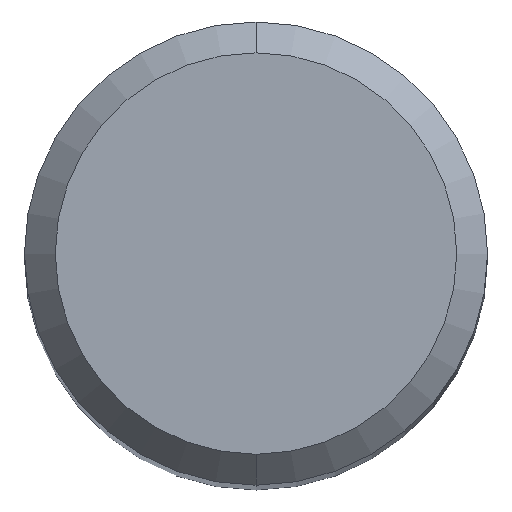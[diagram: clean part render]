
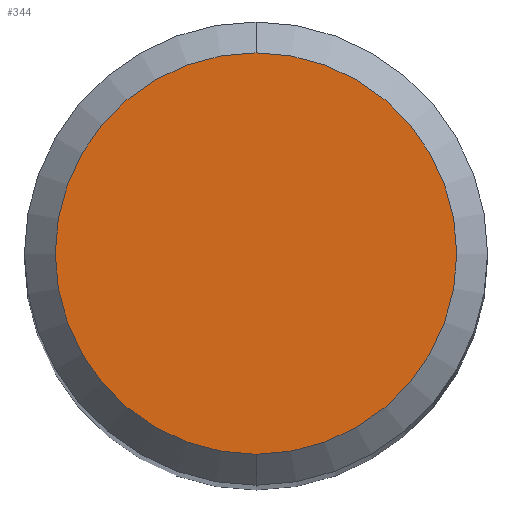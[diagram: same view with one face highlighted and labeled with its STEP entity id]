
A CAD part, top view. The second image highlights one B-rep face of the part: STEP entity #344.
In plain terms, the highlighted planar face has unit normal (0, 0, 1).
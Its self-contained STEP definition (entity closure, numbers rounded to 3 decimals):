
#260=EDGE_CURVE('',#436,#376,#561,.T.);
#340=EDGE_CURVE('',#376,#436,#649,.T.);
#344=ADVANCED_FACE('',(#653),#654,.T.);
#376=VERTEX_POINT('',#689);
#436=VERTEX_POINT('',#758);
#561=CIRCLE('',#980,2.6);
#649=CIRCLE('',#1161,2.6);
#653=FACE_OUTER_BOUND('',#1166,.T.);
#654=PLANE('',#1167);
#689=CARTESIAN_POINT('',(0.0,2.6,0.0));
#758=CARTESIAN_POINT('',(0.,-2.6,0.0));
#980=AXIS2_PLACEMENT_3D('',#1489,#1490,#1491);
#1161=AXIS2_PLACEMENT_3D('',#1596,#1597,#1598);
#1166=EDGE_LOOP('',(#1603,#1604));
#1167=AXIS2_PLACEMENT_3D('',#1605,#1606,#1607);
#1489=CARTESIAN_POINT('',(0.0,0.0,0.0));
#1490=DIRECTION('',(0.0,0.0,-1.0));
#1491=DIRECTION('',(0.0,1.0,0.0));
#1596=CARTESIAN_POINT('',(0.0,0.0,0.0));
#1597=DIRECTION('',(0.0,0.0,-1.0));
#1598=DIRECTION('',(0.0,1.0,0.0));
#1603=ORIENTED_EDGE('',*,*,#340,.F.);
#1604=ORIENTED_EDGE('',*,*,#260,.F.);
#1605=CARTESIAN_POINT('',(0.0,1.3,0.0));
#1606=DIRECTION('',(-0.0,0.0,1.0));
#1607=DIRECTION('',(0.0,-1.0,0.0));
